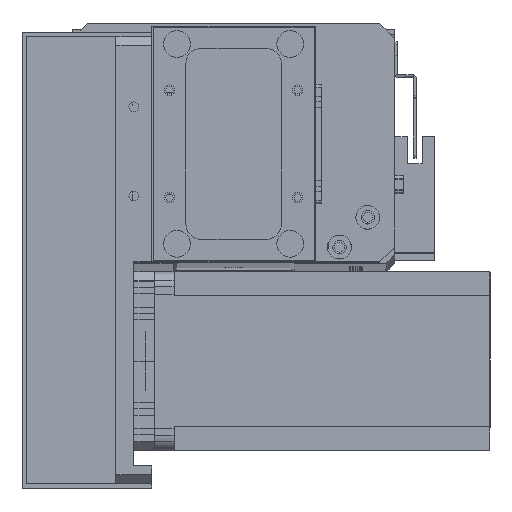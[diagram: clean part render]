
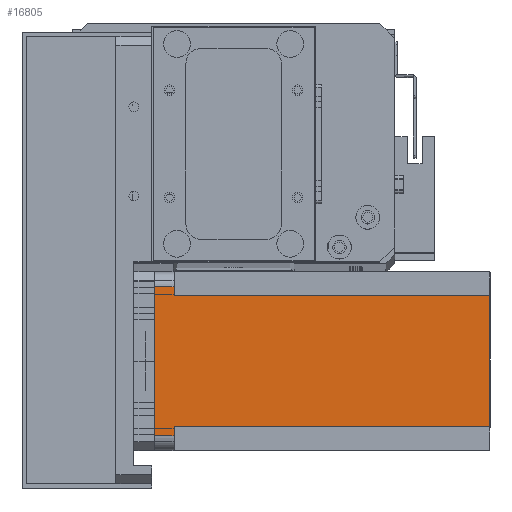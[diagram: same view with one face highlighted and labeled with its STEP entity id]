
A CAD part, top view. The second image highlights one B-rep face of the part: STEP entity #16805.
In plain terms, the highlighted planar face has unit normal (0, 0, 1) as drawn and (0, 1, 0) by its records, which use the part's own axes.
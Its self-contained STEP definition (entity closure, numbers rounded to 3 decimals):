
#737 = ORIENTED_EDGE ( 'NONE', *, *, #29333, .F. ) ;
#1069 = PLANE ( 'NONE',  #7367 ) ;
#1333 = DIRECTION ( 'NONE',  ( 0., 0., 1. ) ) ;
#2161 = DIRECTION ( 'NONE',  ( -1., 0., 0. ) ) ;
#2228 = VERTEX_POINT ( 'NONE', #12605 ) ;
#2596 = CARTESIAN_POINT ( 'NONE',  ( 52., 60., -6.5 ) ) ;
#3402 = VECTOR ( 'NONE', #2161, 1000. ) ;
#3660 = DIRECTION ( 'NONE',  ( 0., 0., 1. ) ) ;
#4071 = CARTESIAN_POINT ( 'NONE',  ( 8., 60., -112.5 ) ) ;
#4146 = CARTESIAN_POINT ( 'NONE',  ( 52., 60., -112.5 ) ) ;
#5008 = LINE ( 'NONE', #29760, #17657 ) ;
#5150 = LINE ( 'NONE', #21847, #23457 ) ;
#5226 = DIRECTION ( 'NONE',  ( -1., 0., 0. ) ) ;
#5835 = ORIENTED_EDGE ( 'NONE', *, *, #9416, .F. ) ;
#6208 = CARTESIAN_POINT ( 'NONE',  ( 0., 60., 0. ) ) ;
#6705 = DIRECTION ( 'NONE',  ( 0., 0., -1. ) ) ;
#7367 = AXIS2_PLACEMENT_3D ( 'NONE', #30512, #18775, #3660 ) ;
#8702 = CARTESIAN_POINT ( 'NONE',  ( 55., 60., 0. ) ) ;
#8753 = CARTESIAN_POINT ( 'NONE',  ( 55., 60., -6.5 ) ) ;
#8982 = EDGE_CURVE ( 'NONE', #20732, #29172, #5008, .T. ) ;
#8987 = ORIENTED_EDGE ( 'NONE', *, *, #28793, .T. ) ;
#9416 = EDGE_CURVE ( 'NONE', #20732, #18357, #11936, .T. ) ;
#10327 = ORIENTED_EDGE ( 'NONE', *, *, #28664, .F. ) ;
#11310 = EDGE_CURVE ( 'NONE', #27667, #24462, #17173, .T. ) ;
#11664 = LINE ( 'NONE', #30870, #28637 ) ;
#11936 = LINE ( 'NONE', #6208, #30381 ) ;
#12605 = CARTESIAN_POINT ( 'NONE',  ( 52., 60., -112.5 ) ) ;
#13059 = EDGE_CURVE ( 'NONE', #24462, #18357, #11664, .T. ) ;
#13705 = EDGE_CURVE ( 'NONE', #14323, #29172, #5150, .T. ) ;
#14260 = LINE ( 'NONE', #4071, #26261 ) ;
#14323 = VERTEX_POINT ( 'NONE', #2596 ) ;
#14398 = CARTESIAN_POINT ( 'NONE',  ( 8., 60., -6.5 ) ) ;
#15448 = VERTEX_POINT ( 'NONE', #24508 ) ;
#15721 = ORIENTED_EDGE ( 'NONE', *, *, #8982, .T. ) ;
#16805 = ADVANCED_FACE ( 'NONE', ( #18307 ), #1069, .T. ) ;
#17173 = LINE ( 'NONE', #28672, #22872 ) ;
#17334 = CARTESIAN_POINT ( 'NONE',  ( 0., 60., -112.5 ) ) ;
#17657 = VECTOR ( 'NONE', #28624, 1000. ) ;
#18232 = VECTOR ( 'NONE', #19136, 1000. ) ;
#18307 = FACE_OUTER_BOUND ( 'NONE', #28208, .T. ) ;
#18357 = VERTEX_POINT ( 'NONE', #27293 ) ;
#18775 = DIRECTION ( 'NONE',  ( 0., 1., 0. ) ) ;
#19011 = ORIENTED_EDGE ( 'NONE', *, *, #11310, .T. ) ;
#19031 = LINE ( 'NONE', #4146, #18232 ) ;
#19136 = DIRECTION ( 'NONE',  ( 0., 0., 1. ) ) ;
#20110 = ORIENTED_EDGE ( 'NONE', *, *, #13705, .F. ) ;
#20732 = VERTEX_POINT ( 'NONE', #8702 ) ;
#21598 = ORIENTED_EDGE ( 'NONE', *, *, #13059, .T. ) ;
#21847 = CARTESIAN_POINT ( 'NONE',  ( 52., 60., -6.5 ) ) ;
#22872 = VECTOR ( 'NONE', #31090, 1000. ) ;
#23457 = VECTOR ( 'NONE', #24114, 1000. ) ;
#24114 = DIRECTION ( 'NONE',  ( 1., 0., 0. ) ) ;
#24462 = VERTEX_POINT ( 'NONE', #26218 ) ;
#24508 = CARTESIAN_POINT ( 'NONE',  ( 8., 60., -112.5 ) ) ;
#26218 = CARTESIAN_POINT ( 'NONE',  ( 5., 60., -6.5 ) ) ;
#26261 = VECTOR ( 'NONE', #6705, 1000. ) ;
#27293 = CARTESIAN_POINT ( 'NONE',  ( 5., 60., 0. ) ) ;
#27667 = VERTEX_POINT ( 'NONE', #14398 ) ;
#28208 = EDGE_LOOP ( 'NONE', ( #5835, #15721, #20110, #737, #8987, #10327, #19011, #21598 ) ) ;
#28624 = DIRECTION ( 'NONE',  ( 0., 0., -1. ) ) ;
#28637 = VECTOR ( 'NONE', #1333, 1000. ) ;
#28664 = EDGE_CURVE ( 'NONE', #27667, #15448, #14260, .T. ) ;
#28672 = CARTESIAN_POINT ( 'NONE',  ( 8., 60., -6.5 ) ) ;
#28793 = EDGE_CURVE ( 'NONE', #2228, #15448, #28839, .T. ) ;
#28839 = LINE ( 'NONE', #17334, #3402 ) ;
#29172 = VERTEX_POINT ( 'NONE', #8753 ) ;
#29333 = EDGE_CURVE ( 'NONE', #2228, #14323, #19031, .T. ) ;
#29760 = CARTESIAN_POINT ( 'NONE',  ( 55., 60., -112.5 ) ) ;
#30381 = VECTOR ( 'NONE', #5226, 1000. ) ;
#30512 = CARTESIAN_POINT ( 'NONE',  ( 0., 60., -112.5 ) ) ;
#30870 = CARTESIAN_POINT ( 'NONE',  ( 5., 60., -112.5 ) ) ;
#31090 = DIRECTION ( 'NONE',  ( -1., 0., 0. ) ) ;
